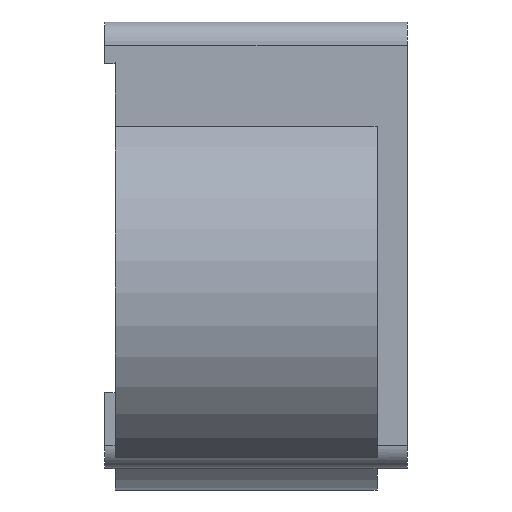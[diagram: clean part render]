
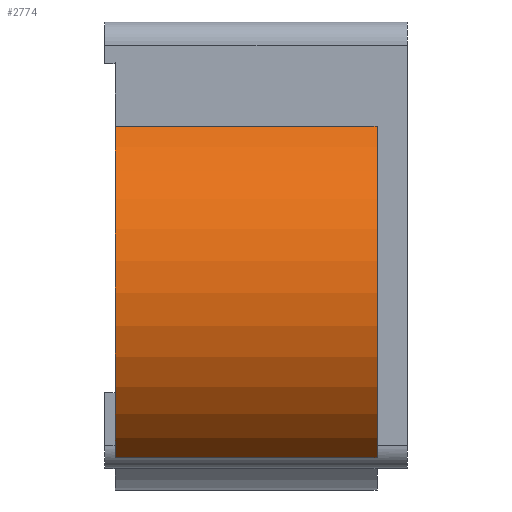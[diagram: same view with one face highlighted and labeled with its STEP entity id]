
A CAD part, left-side view. The second image highlights one B-rep face of the part: STEP entity #2774.
In plain terms, the highlighted cylindrical face has radius 19 mm (diameter 38 mm), a partial arc.
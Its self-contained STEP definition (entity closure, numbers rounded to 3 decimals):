
#129 = CYLINDRICAL_SURFACE('',#130,2.2);
#130 = AXIS2_PLACEMENT_3D('',#131,#132,#133);
#131 = CARTESIAN_POINT('',(-2.5,-96.9,123.25));
#132 = DIRECTION('',(0.,1.,0.));
#133 = DIRECTION('',(0.,0.,-1.));
#218 = PLANE('',#219);
#219 = AXIS2_PLACEMENT_3D('',#220,#221,#222);
#220 = CARTESIAN_POINT('',(-4.7,-96.9,121.05));
#221 = DIRECTION('',(1.,0.,0.));
#222 = DIRECTION('',(0.,1.,0.));
#231 = VERTEX_POINT('',#232);
#232 = CARTESIAN_POINT('',(-4.358,-94.,122.071));
#247 = PLANE('',#248);
#248 = AXIS2_PLACEMENT_3D('',#249,#250,#251);
#249 = CARTESIAN_POINT('',(6.,-94.,138.));
#250 = DIRECTION('',(0.,-1.,0.));
#251 = DIRECTION('',(0.,-0.,-1.));
#263 = EDGE_CURVE('',#264,#231,#266,.T.);
#264 = VERTEX_POINT('',#265);
#265 = CARTESIAN_POINT('',(-4.358,-69.,122.071));
#266 = SURFACE_CURVE('',#267,(#271,#277),.PCURVE_S1.);
#267 = LINE('',#268,#269);
#268 = CARTESIAN_POINT('',(-4.358,-69.,122.071));
#269 = VECTOR('',#270,1.);
#270 = DIRECTION('',(0.,-1.,0.));
#271 = PCURVE('',#129,#272);
#272 = DEFINITIONAL_REPRESENTATION('',(#273),#276);
#273 = B_SPLINE_CURVE_WITH_KNOTS('',1,(#274,#275),.UNSPECIFIED.,.F.,.F.,
  (2,2),(0.,25.),.PIECEWISE_BEZIER_KNOTS.);
#274 = CARTESIAN_POINT('',(1.005,27.9));
#275 = CARTESIAN_POINT('',(1.005,2.9));
#276 = ( GEOMETRIC_REPRESENTATION_CONTEXT(2) 
PARAMETRIC_REPRESENTATION_CONTEXT() REPRESENTATION_CONTEXT('2D SPACE',''
  ) );
#277 = PCURVE('',#278,#283);
#278 = CYLINDRICAL_SURFACE('',#279,19.);
#279 = AXIS2_PLACEMENT_3D('',#280,#281,#282);
#280 = CARTESIAN_POINT('',(6.,-69.,138.));
#281 = DIRECTION('',(0.,-1.,0.));
#282 = DIRECTION('',(0.,-0.,-1.));
#283 = DEFINITIONAL_REPRESENTATION('',(#284),#287);
#284 = B_SPLINE_CURVE_WITH_KNOTS('',1,(#285,#286),.UNSPECIFIED.,.F.,.F.,
  (2,2),(0.,25.),.PIECEWISE_BEZIER_KNOTS.);
#285 = CARTESIAN_POINT('',(5.707,0.));
#286 = CARTESIAN_POINT('',(5.707,25.));
#287 = ( GEOMETRIC_REPRESENTATION_CONTEXT(2) 
PARAMETRIC_REPRESENTATION_CONTEXT() REPRESENTATION_CONTEXT('2D SPACE',''
  ) );
#306 = PLANE('',#307);
#307 = AXIS2_PLACEMENT_3D('',#308,#309,#310);
#308 = CARTESIAN_POINT('',(6.,-69.,138.));
#309 = DIRECTION('',(0.,-1.,0.));
#310 = DIRECTION('',(0.,-0.,-1.));
#2684 = VERTEX_POINT('',#2685);
#2685 = CARTESIAN_POINT('',(-4.7,-94.,153.701));
#2704 = EDGE_CURVE('',#2705,#2684,#2707,.T.);
#2705 = VERTEX_POINT('',#2706);
#2706 = CARTESIAN_POINT('',(-4.7,-69.,153.701));
#2707 = SURFACE_CURVE('',#2708,(#2712,#2718),.PCURVE_S1.);
#2708 = LINE('',#2709,#2710);
#2709 = CARTESIAN_POINT('',(-4.7,-69.,153.701));
#2710 = VECTOR('',#2711,1.);
#2711 = DIRECTION('',(0.,-1.,0.));
#2712 = PCURVE('',#218,#2713);
#2713 = DEFINITIONAL_REPRESENTATION('',(#2714),#2717);
#2714 = B_SPLINE_CURVE_WITH_KNOTS('',1,(#2715,#2716),.UNSPECIFIED.,.F.,
  .F.,(2,2),(0.,25.),.PIECEWISE_BEZIER_KNOTS.);
#2715 = CARTESIAN_POINT('',(27.9,32.651));
#2716 = CARTESIAN_POINT('',(2.9,32.651));
#2717 = ( GEOMETRIC_REPRESENTATION_CONTEXT(2) 
PARAMETRIC_REPRESENTATION_CONTEXT() REPRESENTATION_CONTEXT('2D SPACE',''
  ) );
#2718 = PCURVE('',#278,#2719);
#2719 = DEFINITIONAL_REPRESENTATION('',(#2720),#2723);
#2720 = B_SPLINE_CURVE_WITH_KNOTS('',1,(#2721,#2722),.UNSPECIFIED.,.F.,
  .F.,(2,2),(0.,25.),.PIECEWISE_BEZIER_KNOTS.);
#2721 = CARTESIAN_POINT('',(3.74,0.));
#2722 = CARTESIAN_POINT('',(3.74,25.));
#2723 = ( GEOMETRIC_REPRESENTATION_CONTEXT(2) 
PARAMETRIC_REPRESENTATION_CONTEXT() REPRESENTATION_CONTEXT('2D SPACE',''
  ) );
#2751 = EDGE_CURVE('',#2684,#231,#2752,.T.);
#2752 = SURFACE_CURVE('',#2753,(#2758,#2765),.PCURVE_S1.);
#2753 = CIRCLE('',#2754,19.);
#2754 = AXIS2_PLACEMENT_3D('',#2755,#2756,#2757);
#2755 = CARTESIAN_POINT('',(6.,-94.,138.));
#2756 = DIRECTION('',(0.,-1.,0.));
#2757 = DIRECTION('',(0.,-0.,-1.));
#2758 = PCURVE('',#247,#2759);
#2759 = DEFINITIONAL_REPRESENTATION('',(#2760),#2764);
#2760 = CIRCLE('',#2761,19.);
#2761 = AXIS2_PLACEMENT_2D('',#2762,#2763);
#2762 = CARTESIAN_POINT('',(0.,0.));
#2763 = DIRECTION('',(1.,0.));
#2764 = ( GEOMETRIC_REPRESENTATION_CONTEXT(2) 
PARAMETRIC_REPRESENTATION_CONTEXT() REPRESENTATION_CONTEXT('2D SPACE',''
  ) );
#2765 = PCURVE('',#278,#2766);
#2766 = DEFINITIONAL_REPRESENTATION('',(#2767),#2771);
#2767 = LINE('',#2768,#2769);
#2768 = CARTESIAN_POINT('',(0.,25.));
#2769 = VECTOR('',#2770,1.);
#2770 = DIRECTION('',(1.,0.));
#2771 = ( GEOMETRIC_REPRESENTATION_CONTEXT(2) 
PARAMETRIC_REPRESENTATION_CONTEXT() REPRESENTATION_CONTEXT('2D SPACE',''
  ) );
#2774 = ADVANCED_FACE('',(#2775),#278,.T.);
#2775 = FACE_BOUND('',#2776,.T.);
#2776 = EDGE_LOOP('',(#2777,#2778,#2779,#2780));
#2777 = ORIENTED_EDGE('',*,*,#263,.T.);
#2778 = ORIENTED_EDGE('',*,*,#2751,.F.);
#2779 = ORIENTED_EDGE('',*,*,#2704,.F.);
#2780 = ORIENTED_EDGE('',*,*,#2781,.F.);
#2781 = EDGE_CURVE('',#264,#2705,#2782,.T.);
#2782 = SURFACE_CURVE('',#2783,(#2788,#2795),.PCURVE_S1.);
#2783 = CIRCLE('',#2784,19.);
#2784 = AXIS2_PLACEMENT_3D('',#2785,#2786,#2787);
#2785 = CARTESIAN_POINT('',(6.,-69.,138.));
#2786 = DIRECTION('',(0.,1.,0.));
#2787 = DIRECTION('',(-0.545,0.,-0.838));
#2788 = PCURVE('',#278,#2789);
#2789 = DEFINITIONAL_REPRESENTATION('',(#2790),#2794);
#2790 = LINE('',#2791,#2792);
#2791 = CARTESIAN_POINT('',(5.707,0.));
#2792 = VECTOR('',#2793,1.);
#2793 = DIRECTION('',(-1.,-0.));
#2794 = ( GEOMETRIC_REPRESENTATION_CONTEXT(2) 
PARAMETRIC_REPRESENTATION_CONTEXT() REPRESENTATION_CONTEXT('2D SPACE',''
  ) );
#2795 = PCURVE('',#306,#2796);
#2796 = DEFINITIONAL_REPRESENTATION('',(#2797),#2805);
#2797 = ( BOUNDED_CURVE() B_SPLINE_CURVE(2,(#2798,#2799,#2800,#2801,
#2802,#2803,#2804),.UNSPECIFIED.,.T.,.F.) B_SPLINE_CURVE_WITH_KNOTS((1,2
    ,2,2,2,1),(-2.094,0.,2.094,4.189,
6.283,8.378),.UNSPECIFIED.) CURVE() 
GEOMETRIC_REPRESENTATION_ITEM() RATIONAL_B_SPLINE_CURVE((1.,0.5,1.,0.5,
1.,0.5,1.)) REPRESENTATION_ITEM('') );
#2798 = CARTESIAN_POINT('',(15.929,-10.358));
#2799 = CARTESIAN_POINT('',(-2.012,-37.947));
#2800 = CARTESIAN_POINT('',(-16.934,-8.616));
#2801 = CARTESIAN_POINT('',(-31.857,20.715));
#2802 = CARTESIAN_POINT('',(1.006,18.973));
#2803 = CARTESIAN_POINT('',(33.869,17.231));
#2804 = CARTESIAN_POINT('',(15.929,-10.358));
#2805 = ( GEOMETRIC_REPRESENTATION_CONTEXT(2) 
PARAMETRIC_REPRESENTATION_CONTEXT() REPRESENTATION_CONTEXT('2D SPACE',''
  ) );
